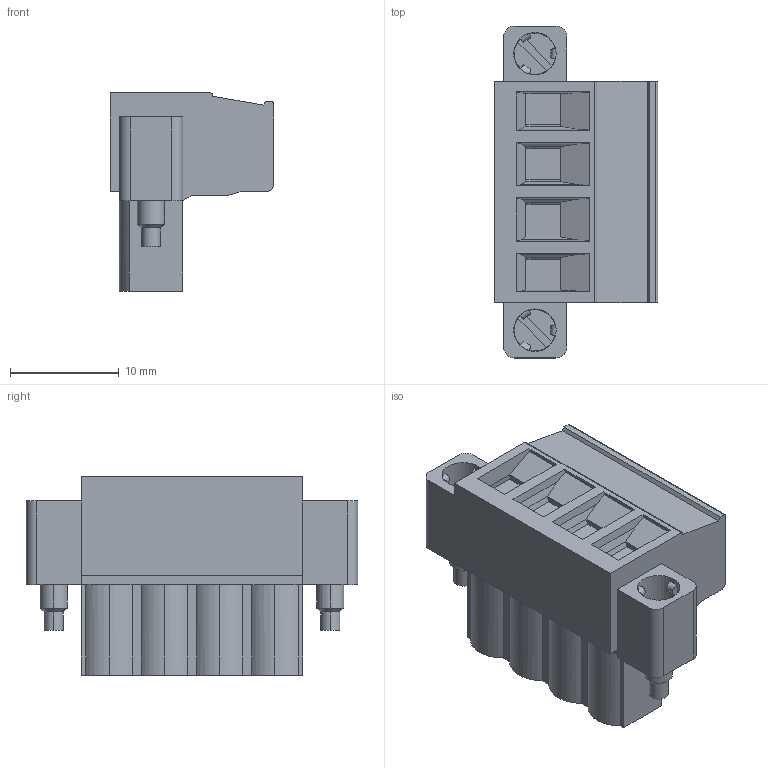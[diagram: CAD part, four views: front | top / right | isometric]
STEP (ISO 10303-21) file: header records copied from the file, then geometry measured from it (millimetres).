
FILE_DESCRIPTION((''),'2;1');
FILE_NAME('CONN_CRIO_4_POS_CMBCN','2007-01-26T',('chrisj'),(''),'PRO/ENGINEER BY PARAMETRIC TECHNOLOGY CORPORATION, 2006080','PRO/ENGINEER BY PARAMETRIC TECHNOLOGY CORPORATION, 2006080','');
FILE_SCHEMA(('AUTOMOTIVE_DESIGN_CC2 { 1 2 10303 214 -1 1 5 2 }'));
Length unit declared in the file: inch
Products named in the file (1): CONN_CRIO_4_POS_CMBCN
Bounding box: 15 x 30.48 x 18.2 mm (x, y, z)
Volume: 3768.4 mm3; surface area: 2660.2 mm2
Topology: 1 solids, 1 shells, 313 faces, 784 edges, 510 vertices
Faces by surface type: plane 213, cylinder 90, torus 6, cone 4
Entity records: 9396 total; most frequent: DIRECTION 1668, CARTESIAN_POINT 1607, ORIENTED_EDGE 1568, EDGE_CURVE 784, AXIS2_PLACEMENT_3D 571, VECTOR 526, LINE 526, VERTEX_POINT 510
